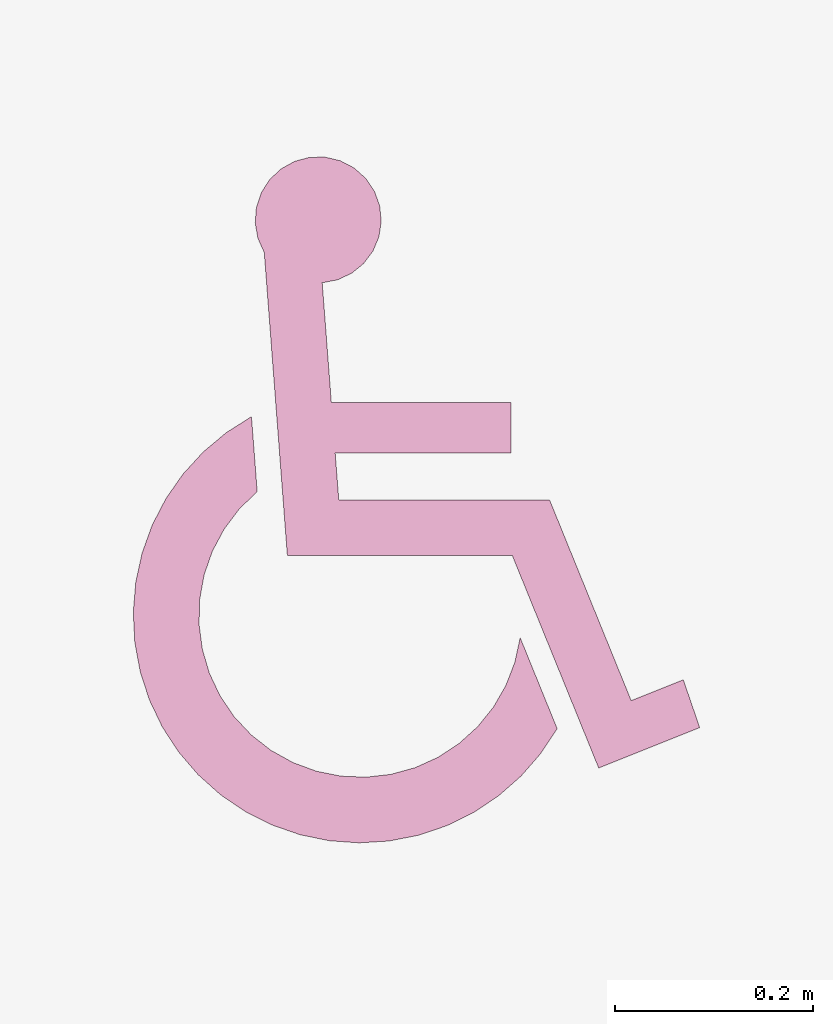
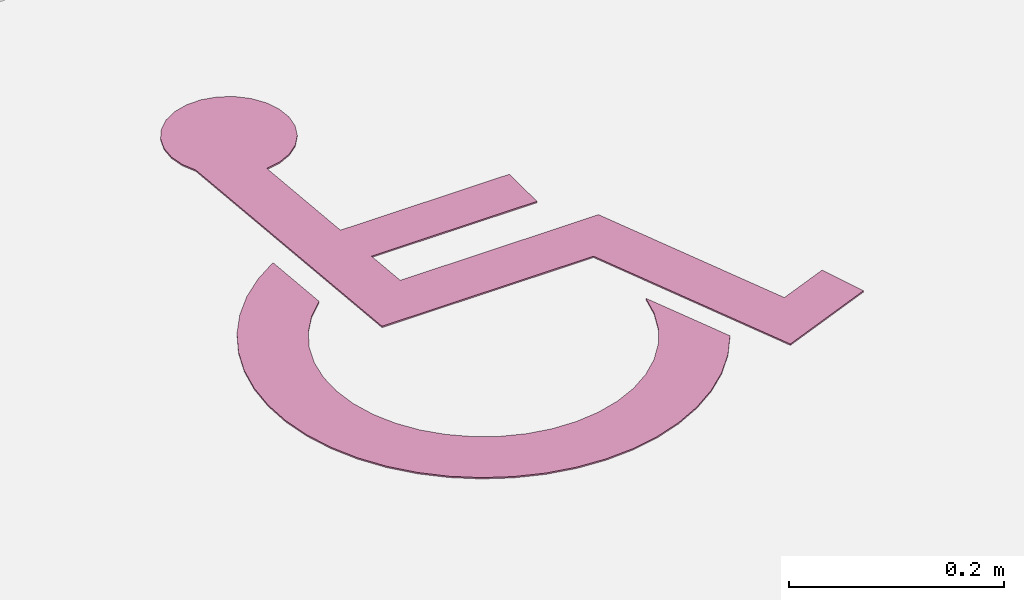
# One storey, part 98 of 100: 1 furnishing.
"""IFC2X3 building model written with IfcOpenShell, lengths in millimetres."""

from ifc_helpers import new_model, entity, si_unit, converted_unit, derived_unit, direction, frame, frame_2d, origin, place, context, subcontext, project, spatial, polyline, circle_curve, parameter, trimmed, segment, composite_curve, outline, extrude, source, transform, mapped, material, material_list, type_object, type_shapes, element, save


model = new_model("IFC2X3")

# Units and contexts
model_context = context("Model", 3, precision=0.01, world=origin(), true_north=direction((6.123031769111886e-17, 1.0)))
body_context = subcontext(model_context, "Body", "Model", "MODEL_VIEW")
ifc_project = project(units=[si_unit("LENGTHUNIT", "METRE", prefix="MILLI"), si_unit("AREAUNIT", "SQUARE_METRE"), si_unit("VOLUMEUNIT", "CUBIC_METRE"), converted_unit("PLANEANGLEUNIT", "DEGREE", entity("IfcRatioMeasure", 0.017453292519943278), si_unit("PLANEANGLEUNIT", "RADIAN"), dimensions=[0, 0, 0, 0, 0, 0, 0]), si_unit("MASSUNIT", "GRAM", prefix="KILO"), derived_unit("MASSDENSITYUNIT", [(si_unit("MASSUNIT", "GRAM", prefix="KILO"), 1), (si_unit("LENGTHUNIT", "METRE"), -3)]), derived_unit("MOMENTOFINERTIAUNIT", [(si_unit("LENGTHUNIT", "METRE"), 4)]), si_unit("TIMEUNIT", "SECOND"), si_unit("FREQUENCYUNIT", "HERTZ"), si_unit("THERMODYNAMICTEMPERATUREUNIT", "DEGREE_CELSIUS"), derived_unit("THERMALTRANSMITTANCEUNIT", [(si_unit("MASSUNIT", "GRAM", prefix="KILO"), 1), (si_unit("THERMODYNAMICTEMPERATUREUNIT", "KELVIN"), -1), (si_unit("TIMEUNIT", "SECOND"), -3)]), derived_unit("VOLUMETRICFLOWRATEUNIT", [(si_unit("LENGTHUNIT", "METRE"), 3), (si_unit("TIMEUNIT", "SECOND"), -1)]), derived_unit("MASSFLOWRATEUNIT", [(si_unit("MASSUNIT", "GRAM", prefix="KILO"), 1), (si_unit("TIMEUNIT", "SECOND"), -1)]), derived_unit("ROTATIONALFREQUENCYUNIT", [(si_unit("TIMEUNIT", "SECOND"), -1)]), si_unit("ELECTRICCURRENTUNIT", "AMPERE"), si_unit("ELECTRICVOLTAGEUNIT", "VOLT"), si_unit("POWERUNIT", "WATT"), si_unit("FORCEUNIT", "NEWTON", prefix="KILO"), si_unit("ILLUMINANCEUNIT", "LUX"), si_unit("LUMINOUSFLUXUNIT", "LUMEN"), si_unit("LUMINOUSINTENSITYUNIT", "CANDELA"), derived_unit("USERDEFINED", [(si_unit("MASSUNIT", "GRAM", prefix="KILO"), -1), (si_unit("LENGTHUNIT", "METRE"), -2), (si_unit("TIMEUNIT", "SECOND"), 3), (si_unit("LUMINOUSFLUXUNIT", "LUMEN"), 1)]), derived_unit("SOUNDPOWERUNIT", [(si_unit("MASSUNIT", "GRAM", prefix="KILO"), 1), (si_unit("LENGTHUNIT", "METRE"), 2), (si_unit("TIMEUNIT", "SECOND"), -3)]), derived_unit("SOUNDPRESSUREUNIT", [(si_unit("MASSUNIT", "GRAM", prefix="KILO"), 1), (si_unit("LENGTHUNIT", "METRE"), -1), (si_unit("TIMEUNIT", "SECOND"), -2)]), derived_unit("LINEARVELOCITYUNIT", [(si_unit("LENGTHUNIT", "METRE"), 1), (si_unit("TIMEUNIT", "SECOND"), -1)]), si_unit("PRESSUREUNIT", "PASCAL"), derived_unit("USERDEFINED", [(si_unit("LENGTHUNIT", "METRE"), -2), (si_unit("MASSUNIT", "GRAM", prefix="KILO"), 1), (si_unit("TIMEUNIT", "SECOND"), -2)]), derived_unit("LINEARFORCEUNIT", [(si_unit("MASSUNIT", "GRAM", prefix="KILO"), 1), (si_unit("LENGTHUNIT", "METRE"), 1), (si_unit("TIMEUNIT", "SECOND"), -2), (si_unit("LENGTHUNIT", "METRE"), -1)]), derived_unit("PLANARFORCEUNIT", [(si_unit("MASSUNIT", "GRAM", prefix="KILO"), 1), (si_unit("LENGTHUNIT", "METRE"), 1), (si_unit("TIMEUNIT", "SECOND"), -2), (si_unit("LENGTHUNIT", "METRE"), -2)])], contexts=[model_context])

# Site, building, storey, space
site_placement = place(None, frame((-14167.972527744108, -657.2125860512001, 0.0)))
site = spatial("IfcSite", under=ifc_project, at=site_placement, Name="Default", CompositionType="ELEMENT")
building_placement = place(site_placement, origin())
building = spatial("IfcBuilding", under=site, at=building_placement, Name="Sample Building", CompositionType="ELEMENT")
storey_placement = place(building_placement, origin())
storey = spatial("IfcBuildingStorey", under=building, at=storey_placement, Name="지상 1층", CompositionType="ELEMENT", Elevation=0.0)
space_placement = place(storey_placement, origin())
space = spatial("IfcSpace", under=storey, at=space_placement, Name="171", CompositionType="ELEMENT", InteriorOrExteriorSpace="INTERNAL")

# Furnishing
ifc_material = material(Name="KBIMS-노면용 페인트_진하늘색")
ifc_material_list = material_list([ifc_material, ifc_material])
furniture_type = type_object("IfcFurnitureType", Name="SE251-장애인전용 표시:SE251-장애인전용 표시", material=ifc_material_list)
shared_shape = source(origin(), body_context, "Body", "SweptSolid", [
    extrude(outline(composite_curve([segment(trimmed(circle_curve(frame_2d((-36.68855283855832, -47.74251805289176), x_axis=(1.0, 0.0)), 229.68578343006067), [parameter(118.63343780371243)], [parameter(330.18087778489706)], True, "PARAMETER"), True, "CONTINUOUS"), segment(polyline([(162.58672770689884, -161.9568852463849), (125.13875807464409, -69.8626552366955)]), True, "CONTINUOUS"), segment(trimmed(circle_curve(frame_2d((-36.68855283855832, -47.74251805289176), x_axis=(1.0, 0.0)), 163.33211266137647), [parameter(129.67752554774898)], [parameter(352.21649007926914)], True, "PARAMETER"), False, "CONTINUOUS"), segment(polyline([(-140.97054841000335, 77.96605136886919), (-146.7549373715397, 153.85348911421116)]), True, "CONTINUOUS")], self_intersect=False)), frame((71.31807136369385, -37.57408412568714, 0.0)), (0.0, 0.0, 1.0), 1.5875),
    extrude(outline(composite_curve([segment(polyline([(-282.31222354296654, -186.97456283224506), (25.012127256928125, -186.974562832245)]), True, "CONTINUOUS"), segment(polyline([(25.012127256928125, -186.974562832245), (42.305091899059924, 39.89793596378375)]), True, "CONTINUOUS"), segment(polyline([(42.30509189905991, 39.89793596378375), (263.5159692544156, 110.7895168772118)]), True, "CONTINUOUS"), segment(polyline([(263.5159692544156, 110.7895168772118), (230.53394569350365, 215.81642815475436)]), True, "CONTINUOUS"), segment(polyline([(230.53394569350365, 215.81642815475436), (181.07321552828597, 202.95741624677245)]), True, "CONTINUOUS"), segment(polyline([(181.07321552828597, 202.95741624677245), (198.08692429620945, 148.77950087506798)]), True, "CONTINUOUS"), segment(polyline([(198.08692429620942, 148.77950087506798), (-10.806586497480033, 81.83527372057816)]), True, "CONTINUOUS"), segment(polyline([(-10.806586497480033, 81.83527372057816), (-27.016565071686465, -130.829149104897)]), True, "CONTINUOUS"), segment(polyline([(-27.01656507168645, -130.829149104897), (-74.51295100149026, -130.82914910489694)]), True, "CONTINUOUS"), segment(polyline([(-74.51295100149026, -130.82914910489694), (-60.984513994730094, 46.65518467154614)]), True, "CONTINUOUS"), segment(polyline([(-60.984513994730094, 46.65518467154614), (-111.87816757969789, 50.53446557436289)]), True, "CONTINUOUS"), segment(polyline([(-111.87816757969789, 50.53446557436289), (-125.70229607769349, -130.82914910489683)]), True, "CONTINUOUS"), segment(polyline([(-125.70229607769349, -130.82914910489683), (-247.3139701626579, -130.8291491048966)]), True, "CONTINUOUS"), segment(trimmed(circle_curve(frame_2d((-311.1107235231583, -130.04222235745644), x_axis=(0.07600280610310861, 0.9971076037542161)), 63.80160650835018), [parameter(273.6521413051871)], [parameter(211.19083029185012)], True, "PARAMETER"), True, "CONTINUOUS")], self_intersect=False)), frame((145.3871253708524, 15.097937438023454, 0.0), z_axis=(0.0, 0.0, 1.0), x_axis=(0.07600280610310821, -0.9971076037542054, 0.0)), (0.0, 0.0, 1.0), 1.5875),
])
type_shapes(furniture_type, [shared_shape])
furnishing_placement = place(space_placement, frame((39107.972527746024, 26227.212300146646, -510.0)))
element("IfcFurnishingElement", 1, at=furnishing_placement, inside=space, type_object=furniture_type, material=ifc_material, Name="SE251-장애인전용 표시:SE251-장애인전용 표시", ObjectType="SE251-장애인전용 표시:SE251-장애인전용 표시", context=body_context, shape_type="MappedRepresentation", body=[
    mapped(shared_shape, transform((0.0, 0.0, 0.0), scale=1.0)),
])

save(model, "model.ifc")
